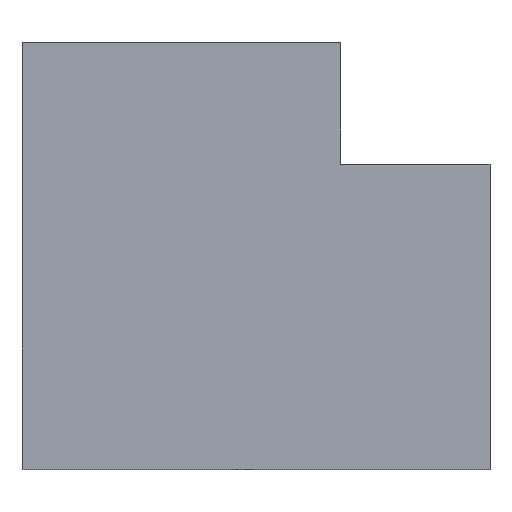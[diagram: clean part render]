
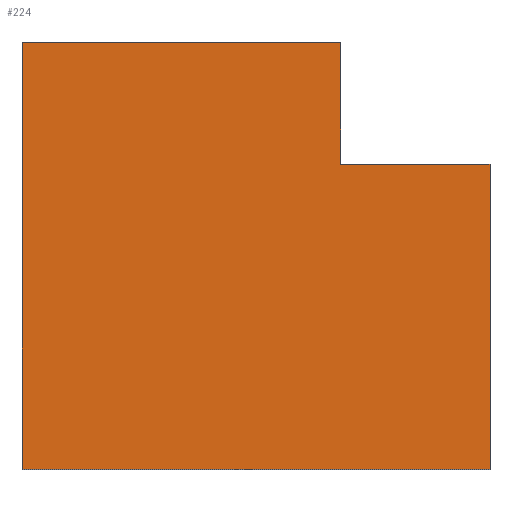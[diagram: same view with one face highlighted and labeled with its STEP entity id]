
A CAD part, top view. The second image highlights one B-rep face of the part: STEP entity #224.
In plain terms, the highlighted planar face has unit normal (0, 0, 1).
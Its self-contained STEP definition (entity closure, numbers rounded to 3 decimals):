
#8 = AXIS2_PLACEMENT_3D ( 'NONE', #295, #39, #273 ) ;
#10 = CARTESIAN_POINT ( 'NONE',  ( -243.96, 11.5, 0. ) ) ;
#14 = CARTESIAN_POINT ( 'NONE',  ( -237.95, -5.699, 0. ) ) ;
#15 = DIRECTION ( 'NONE',  ( 1., 0., 0. ) ) ;
#26 = VERTEX_POINT ( 'NONE', #289 ) ;
#32 = LINE ( 'NONE', #38, #47 ) ;
#35 = CARTESIAN_POINT ( 'NONE',  ( -243.96, 6.586, 0. ) ) ;
#38 = CARTESIAN_POINT ( 'NONE',  ( -256.8, 0., 0. ) ) ;
#39 = DIRECTION ( 'NONE',  ( 0., 0., 1. ) ) ;
#43 = EDGE_CURVE ( 'NONE', #26, #259, #173, .T. ) ;
#47 = VECTOR ( 'NONE', #125, 1000. ) ;
#51 = DIRECTION ( 'NONE',  ( 1., 0., 0. ) ) ;
#55 = DIRECTION ( 'NONE',  ( 1., 0., 0. ) ) ;
#57 = ORIENTED_EDGE ( 'NONE', *, *, #248, .F. ) ;
#63 = VECTOR ( 'NONE', #15, 1000. ) ;
#64 = EDGE_CURVE ( 'NONE', #104, #69, #175, .T. ) ;
#69 = VERTEX_POINT ( 'NONE', #171 ) ;
#70 = ORIENTED_EDGE ( 'NONE', *, *, #280, .F. ) ;
#73 = VECTOR ( 'NONE', #55, 1000. ) ;
#84 = PLANE ( 'NONE',  #8 ) ;
#85 = EDGE_CURVE ( 'NONE', #259, #104, #220, .T. ) ;
#89 = VECTOR ( 'NONE', #228, 1000. ) ;
#92 = ORIENTED_EDGE ( 'NONE', *, *, #64, .F. ) ;
#104 = VERTEX_POINT ( 'NONE', #35 ) ;
#122 = CARTESIAN_POINT ( 'NONE',  ( -237.95, 0., 0. ) ) ;
#125 = DIRECTION ( 'NONE',  ( 0., 1., 0. ) ) ;
#152 = VECTOR ( 'NONE', #51, 1000. ) ;
#153 = DIRECTION ( 'NONE',  ( 0., -1., 0. ) ) ;
#154 = FACE_OUTER_BOUND ( 'NONE', #260, .T. ) ;
#163 = ORIENTED_EDGE ( 'NONE', *, *, #85, .F. ) ;
#171 = CARTESIAN_POINT ( 'NONE',  ( -237.95, 6.586, 0. ) ) ;
#173 = LINE ( 'NONE', #193, #152 ) ;
#175 = LINE ( 'NONE', #285, #73 ) ;
#183 = LINE ( 'NONE', #229, #63 ) ;
#191 = EDGE_CURVE ( 'NONE', #239, #253, #183, .T. ) ;
#193 = CARTESIAN_POINT ( 'NONE',  ( 0., 11.5, 0. ) ) ;
#201 = CARTESIAN_POINT ( 'NONE',  ( -243.96, 0., 0. ) ) ;
#204 = ORIENTED_EDGE ( 'NONE', *, *, #191, .T. ) ;
#220 = LINE ( 'NONE', #201, #276 ) ;
#224 = ADVANCED_FACE ( 'NONE', ( #154 ), #84, .T. ) ;
#228 = DIRECTION ( 'NONE',  ( 0., -1., 0. ) ) ;
#229 = CARTESIAN_POINT ( 'NONE',  ( 0., -5.699, 0. ) ) ;
#239 = VERTEX_POINT ( 'NONE', #245 ) ;
#245 = CARTESIAN_POINT ( 'NONE',  ( -256.8, -5.699, 0. ) ) ;
#248 = EDGE_CURVE ( 'NONE', #239, #26, #32, .T. ) ;
#253 = VERTEX_POINT ( 'NONE', #14 ) ;
#258 = ORIENTED_EDGE ( 'NONE', *, *, #43, .F. ) ;
#259 = VERTEX_POINT ( 'NONE', #10 ) ;
#260 = EDGE_LOOP ( 'NONE', ( #57, #204, #70, #92, #163, #258 ) ) ;
#273 = DIRECTION ( 'NONE',  ( 1., 0., 0. ) ) ;
#276 = VECTOR ( 'NONE', #153, 1000. ) ;
#280 = EDGE_CURVE ( 'NONE', #69, #253, #293, .T. ) ;
#285 = CARTESIAN_POINT ( 'NONE',  ( 0., 6.586, 0. ) ) ;
#289 = CARTESIAN_POINT ( 'NONE',  ( -256.8, 11.5, 0. ) ) ;
#293 = LINE ( 'NONE', #122, #89 ) ;
#295 = CARTESIAN_POINT ( 'NONE',  ( 0., 0., 0. ) ) ;
